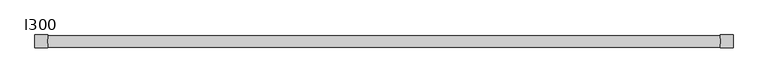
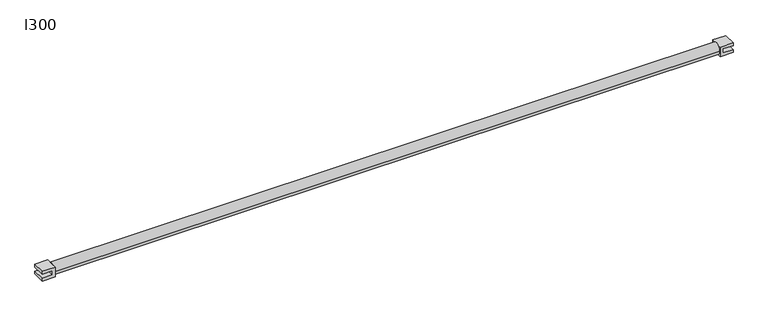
"""IFC4 building model written with IfcOpenShell, lengths in millimetres: proxy geometry, MILLS_ACRAM_LISSES : l300."""

from ifc_helpers import new_model, si_unit, point, frame, origin, origin_2d, place, context, project, spatial, polyline, circle_curve, trimmed, segment, composite_curve, outline, extrude, source, transform, mapped, element, save


def l300_ff75a488(model_context):
    return source(origin(), model_context, "Body", "SweptSolid", [
        extrude(outline(polyline([(-21.859582, -1419.0299635), (21.859582, -1419.0299635), (21.859582, -1473.85193), (9.0, -1473.85193), (9.0, -1430.861632), (-9.0, -1430.861632), (-9.0, -1473.85193), (-21.859582, -1473.85193), (-21.859582, -1419.0299635)])), frame((0.0, -26.9, 0.0), z_axis=(0.0, 1.0, 0.0), x_axis=(0.0, 0.0, 1.0)), (0.0, 0.0, 1.0), 53.8),
        extrude(outline(polyline([(-21.0, 1405.9700365), (-21.0, 1460.7920031), (-9.0, 1460.7920031), (-9.0, 1417.8017051), (9.0, 1417.8017051), (9.0, 1460.7920031), (21.0, 1460.7920031), (21.0, 1405.9700365), (-21.0, 1405.9700365)])), frame((0.0, -26.9, 0.0), z_axis=(0.0, 1.0, 0.0), x_axis=(0.0, 0.0, 1.0)), (0.0, 0.0, 1.0), 53.8),
        extrude(outline(composite_curve([segment(trimmed(circle_curve(origin_2d(), 24.15), [point((-24.15, 0.0))], [point((24.15, 0.0))], False, "CARTESIAN"), True, "CONTINUOUS"), segment(trimmed(circle_curve(origin_2d(), 24.15), [point((24.15, 0.0))], [point((-24.15, 0.0))], False, "CARTESIAN"), True, "CONTINUOUS")], self_intersect=False)), frame((-1419.0299635, 0.0, 0.0), z_axis=(1.0, 0.0, 0.0), x_axis=(0.0, 1.0, 0.0)), (0.0, 0.0, 1.0), 2825.0),
    ])


if __name__ == "__main__":
    model = new_model("IFC4")
    model_context = context("Model", 3, world=origin())
    ifc_project = project(units=[si_unit("LENGTHUNIT", "METRE", prefix="MILLI")], contexts=[model_context])
    site = spatial("IfcSite", under=ifc_project)
    building = spatial("IfcBuilding", under=site)
    placement = place(None, origin())
    l300_shape = l300_ff75a488(model_context)
    element("IfcBuildingElementProxy", 1, Name="MILLS_ACRAM_LISSES : l300", ObjectType="MILLS_ACRAM_LISSES : l300", at=placement, inside=building, context=model_context, shape_type="MappedRepresentation", body=[
        mapped(l300_shape, transform((0.0, 0.0, 0.0), x_axis=(1.0, 0.0, 0.0), y_axis=(0.0, 1.0, 0.0), z_axis=(0.0, 0.0, 1.0))),
    ])
    save(model, "model.ifc")
